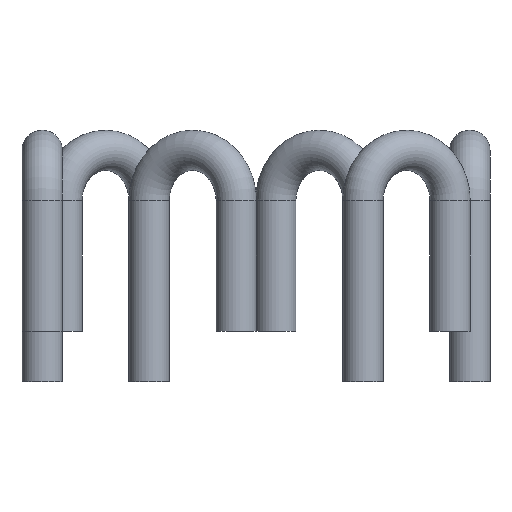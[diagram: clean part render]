
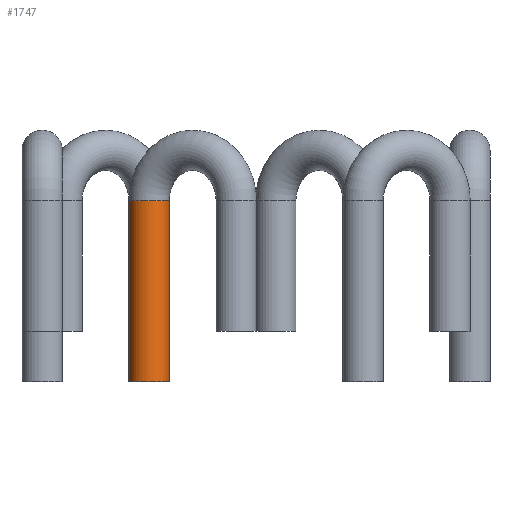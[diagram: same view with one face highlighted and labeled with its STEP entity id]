
A CAD part, front view. The second image highlights one B-rep face of the part: STEP entity #1747.
In plain terms, the highlighted cylindrical face has radius 4 mm (diameter 8 mm), a full revolution.
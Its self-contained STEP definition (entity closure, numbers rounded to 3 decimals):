
#1747 = ADVANCED_FACE('',(#1748),#1762,.T.);
#1748 = FACE_BOUND('',#1749,.T.);
#1749 = EDGE_LOOP('',(#1750,#1780,#1807,#1808));
#1750 = ORIENTED_EDGE('',*,*,#1751,.T.);
#1751 = EDGE_CURVE('',#1752,#1754,#1756,.T.);
#1752 = VERTEX_POINT('',#1753);
#1753 = CARTESIAN_POINT('',(-23.25,-40.27,77.));
#1754 = VERTEX_POINT('',#1755);
#1755 = CARTESIAN_POINT('',(-23.25,-40.27,113.));
#1756 = SEAM_CURVE('',#1757,(#1761,#1773),.PCURVE_S1.);
#1757 = LINE('',#1758,#1759);
#1758 = CARTESIAN_POINT('',(-23.25,-40.27,77.));
#1759 = VECTOR('',#1760,1.);
#1760 = DIRECTION('',(0.,0.,1.));
#1761 = PCURVE('',#1762,#1767);
#1762 = CYLINDRICAL_SURFACE('',#1763,4.);
#1763 = AXIS2_PLACEMENT_3D('',#1764,#1765,#1766);
#1764 = CARTESIAN_POINT('',(-21.25,-36.806,77.));
#1765 = DIRECTION('',(0.,0.,1.));
#1766 = DIRECTION('',(-0.5,-0.866,0.));
#1767 = DEFINITIONAL_REPRESENTATION('',(#1768),#1772);
#1768 = LINE('',#1769,#1770);
#1769 = CARTESIAN_POINT('',(6.283,0.));
#1770 = VECTOR('',#1771,1.);
#1771 = DIRECTION('',(0.,1.));
#1772 = ( GEOMETRIC_REPRESENTATION_CONTEXT(2) 
PARAMETRIC_REPRESENTATION_CONTEXT() REPRESENTATION_CONTEXT('2D SPACE',''
  ) );
#1773 = PCURVE('',#1762,#1774);
#1774 = DEFINITIONAL_REPRESENTATION('',(#1775),#1779);
#1775 = LINE('',#1776,#1777);
#1776 = CARTESIAN_POINT('',(0.,0.));
#1777 = VECTOR('',#1778,1.);
#1778 = DIRECTION('',(0.,1.));
#1779 = ( GEOMETRIC_REPRESENTATION_CONTEXT(2) 
PARAMETRIC_REPRESENTATION_CONTEXT() REPRESENTATION_CONTEXT('2D SPACE',''
  ) );
#1780 = ORIENTED_EDGE('',*,*,#1781,.F.);
#1781 = EDGE_CURVE('',#1754,#1754,#1782,.T.);
#1782 = SURFACE_CURVE('',#1783,(#1788,#1795),.PCURVE_S1.);
#1783 = CIRCLE('',#1784,4.);
#1784 = AXIS2_PLACEMENT_3D('',#1785,#1786,#1787);
#1785 = CARTESIAN_POINT('',(-21.25,-36.806,113.));
#1786 = DIRECTION('',(0.,0.,1.));
#1787 = DIRECTION('',(-0.5,-0.866,0.));
#1788 = PCURVE('',#1762,#1789);
#1789 = DEFINITIONAL_REPRESENTATION('',(#1790),#1794);
#1790 = LINE('',#1791,#1792);
#1791 = CARTESIAN_POINT('',(0.,36.));
#1792 = VECTOR('',#1793,1.);
#1793 = DIRECTION('',(1.,0.));
#1794 = ( GEOMETRIC_REPRESENTATION_CONTEXT(2) 
PARAMETRIC_REPRESENTATION_CONTEXT() REPRESENTATION_CONTEXT('2D SPACE',''
  ) );
#1795 = PCURVE('',#1796,#1801);
#1796 = TOROIDAL_SURFACE('',#1797,10.,4.);
#1797 = AXIS2_PLACEMENT_3D('',#1798,#1799,#1800);
#1798 = CARTESIAN_POINT('',(-12.59,-41.806,113.));
#1799 = DIRECTION('',(0.5,0.866,0.));
#1800 = DIRECTION('',(-0.866,0.5,0.));
#1801 = DEFINITIONAL_REPRESENTATION('',(#1802),#1806);
#1802 = LINE('',#1803,#1804);
#1803 = CARTESIAN_POINT('',(0.,10.996));
#1804 = VECTOR('',#1805,1.);
#1805 = DIRECTION('',(-0.,-1.));
#1806 = ( GEOMETRIC_REPRESENTATION_CONTEXT(2) 
PARAMETRIC_REPRESENTATION_CONTEXT() REPRESENTATION_CONTEXT('2D SPACE',''
  ) );
#1807 = ORIENTED_EDGE('',*,*,#1751,.F.);
#1808 = ORIENTED_EDGE('',*,*,#1809,.T.);
#1809 = EDGE_CURVE('',#1752,#1752,#1810,.T.);
#1810 = SURFACE_CURVE('',#1811,(#1816,#1823),.PCURVE_S1.);
#1811 = CIRCLE('',#1812,4.);
#1812 = AXIS2_PLACEMENT_3D('',#1813,#1814,#1815);
#1813 = CARTESIAN_POINT('',(-21.25,-36.806,77.));
#1814 = DIRECTION('',(0.,0.,1.));
#1815 = DIRECTION('',(-0.5,-0.866,0.));
#1816 = PCURVE('',#1762,#1817);
#1817 = DEFINITIONAL_REPRESENTATION('',(#1818),#1822);
#1818 = LINE('',#1819,#1820);
#1819 = CARTESIAN_POINT('',(0.,0.));
#1820 = VECTOR('',#1821,1.);
#1821 = DIRECTION('',(1.,0.));
#1822 = ( GEOMETRIC_REPRESENTATION_CONTEXT(2) 
PARAMETRIC_REPRESENTATION_CONTEXT() REPRESENTATION_CONTEXT('2D SPACE',''
  ) );
#1823 = PCURVE('',#1824,#1829);
#1824 = PLANE('',#1825);
#1825 = AXIS2_PLACEMENT_3D('',#1826,#1827,#1828);
#1826 = CARTESIAN_POINT('',(-21.25,-36.806,77.));
#1827 = DIRECTION('',(0.,0.,1.));
#1828 = DIRECTION('',(-0.5,-0.866,0.));
#1829 = DEFINITIONAL_REPRESENTATION('',(#1830),#1834);
#1830 = CIRCLE('',#1831,4.);
#1831 = AXIS2_PLACEMENT_2D('',#1832,#1833);
#1832 = CARTESIAN_POINT('',(0.,0.));
#1833 = DIRECTION('',(1.,0.));
#1834 = ( GEOMETRIC_REPRESENTATION_CONTEXT(2) 
PARAMETRIC_REPRESENTATION_CONTEXT() REPRESENTATION_CONTEXT('2D SPACE',''
  ) );
